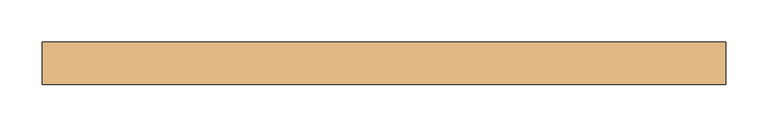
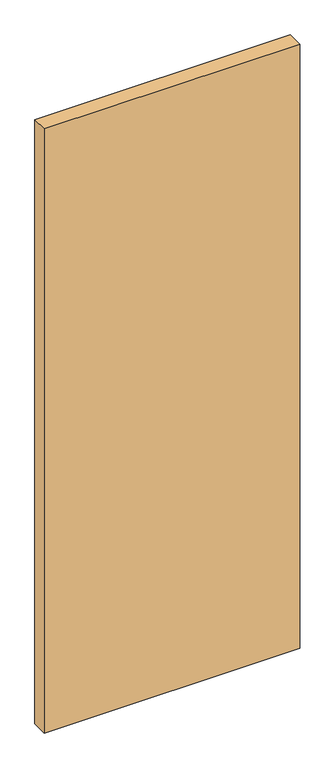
"""IFC4 building model written with IfcOpenShell, lengths in millimetres: door geometry, Planitar - Swap_Flush Panel : Planitar - Swap_Flush Panel."""

from ifc_helpers import new_model, si_unit, origin, origin_with_axes, place, context, project, spatial, polyline, outline, extrude, source, transform, mapped, element, save


def door_7f0c49ba(model_context):
    return source(origin(), model_context, "Body", "SweptSolid", [
        extrude(outline(polyline([(406.4, -25.4), (-406.4, -25.4), (-406.4, 25.4), (406.4, 25.4), (406.4, -25.4)])), origin_with_axes(), (0.0, 0.0, 1.0), 2032.0),
    ])


if __name__ == "__main__":
    model = new_model("IFC4")
    model_context = context("Model", 3, world=origin())
    ifc_project = project(units=[si_unit("LENGTHUNIT", "METRE", prefix="MILLI")], contexts=[model_context])
    site = spatial("IfcSite", under=ifc_project)
    building = spatial("IfcBuilding", under=site)
    placement = place(None, origin())
    door_shape = door_7f0c49ba(model_context)
    element("IfcDoor", 1, ObjectType="Planitar - Swap_Flush Panel : Planitar - Swap_Flush Panel", at=placement, inside=building, context=model_context, shape_type="MappedRepresentation", body=[
        mapped(door_shape, transform((0.0, 0.0, 0.0), x_axis=(1.0, 0.0, 0.0), y_axis=(0.0, 1.0, 0.0), z_axis=(0.0, 0.0, 1.0))),
    ])
    save(model, "model.ifc")
